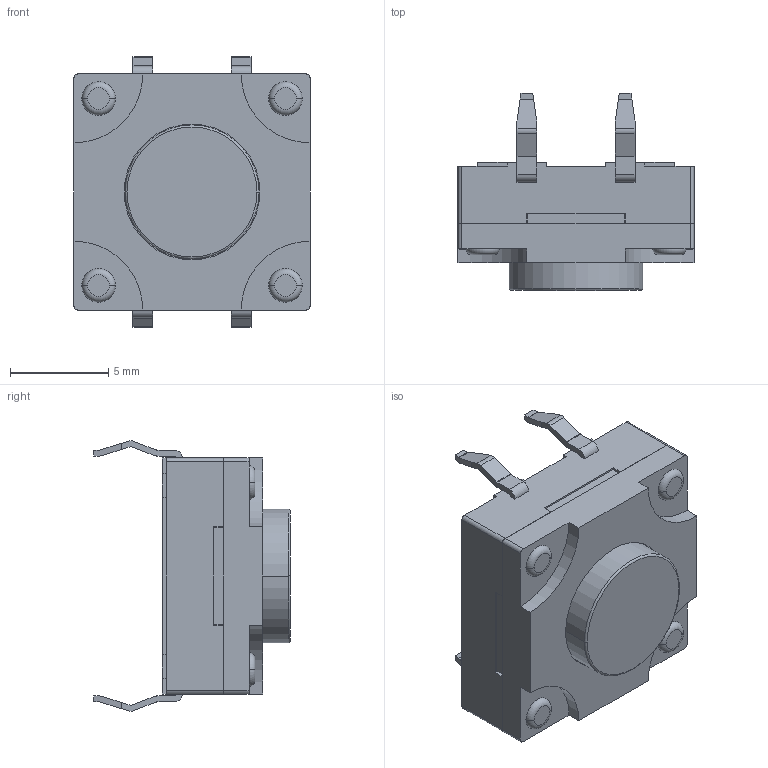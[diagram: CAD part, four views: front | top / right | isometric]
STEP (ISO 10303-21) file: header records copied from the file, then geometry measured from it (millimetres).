
FILE_DESCRIPTION((''),'2;1');
FILE_NAME('JQB1212F-C0651-01GE-101_ASM','2026-05-13T16:07:42',('Admin'),(''),'CREO PARAMETRIC BY PTC INC, 2019224','CREO PARAMETRIC BY PTC INC, 2019224','');
FILE_SCHEMA(('AUTOMOTIVE_DESIGN { 1 0 10303 214 1 1 1 1 }'));
Length unit declared in the file: millimetre
Products named in the file (3): JQB1212F-C0651-01GE-101_01; JQB1212F-C0651-01GE-101_02; JQB1212F-C0651-01GE-101_ASM
Assembly tree (2 placements, depth 2):
  JQB1212F-C0651-01GE-101_ASM
    JQB1212F-C0651-01GE-101_01
    JQB1212F-C0651-01GE-101_02
Bounding box: 12 x 10 x 13.75 mm (x, y, z)
Volume: 745.7 mm3; surface area: 963.4 mm2
Topology: 2 solids, 2 shells, 211 faces, 578 edges, 398 vertices
Faces by surface type: plane 137, cylinder 64, torus 10
Entity records: 9593 total; most frequent: CARTESIAN_POINT 1217, DIRECTION 1146, ORIENTED_EDGE 1136, PRESENTATION_STYLE_ASSIGNMENT 667, STYLED_ITEM 583, CURVE_STYLE 581, EDGE_CURVE 568, VECTOR 422
